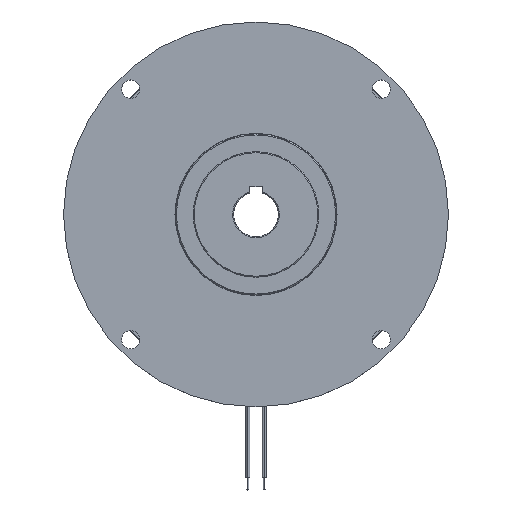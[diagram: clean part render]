
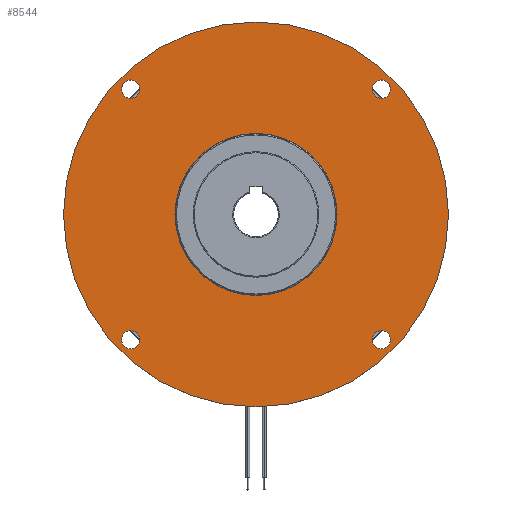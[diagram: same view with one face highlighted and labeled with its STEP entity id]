
A CAD part, top view. The second image highlights one B-rep face of the part: STEP entity #8544.
In plain terms, the highlighted planar face has unit normal (0, 0, 1).
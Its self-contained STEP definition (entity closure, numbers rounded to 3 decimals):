
#44 = CIRCLE ( 'NONE', #6702, 40. ) ;
#144 = DIRECTION ( 'NONE',  ( 0., 0., -1. ) ) ;
#175 = EDGE_CURVE ( 'NONE', #2555, #3158, #5565, .T. ) ;
#204 = AXIS2_PLACEMENT_3D ( 'NONE', #5038, #4510, #4339 ) ;
#251 = DIRECTION ( 'NONE',  ( 0., 0., -1. ) ) ;
#262 = DIRECTION ( 'NONE',  ( -1., 0., 0. ) ) ;
#287 = EDGE_CURVE ( 'NONE', #3158, #2555, #1595, .T. ) ;
#376 = CARTESIAN_POINT ( 'NONE',  ( -66.372, 61.872, 0. ) ) ;
#389 = ORIENTED_EDGE ( 'NONE', *, *, #1904, .F. ) ;
#463 = CARTESIAN_POINT ( 'NONE',  ( 57.372, -61.872, 0. ) ) ;
#587 = EDGE_CURVE ( 'NONE', #1564, #6112, #7702, .T. ) ;
#684 = AXIS2_PLACEMENT_3D ( 'NONE', #5511, #8155, #262 ) ;
#701 = VERTEX_POINT ( 'NONE', #6512 ) ;
#739 = DIRECTION ( 'NONE',  ( 0., 0., -1. ) ) ;
#961 = DIRECTION ( 'NONE',  ( -1., 0., 0. ) ) ;
#979 = CARTESIAN_POINT ( 'NONE',  ( 61.872, -61.872, 0. ) ) ;
#1136 = CARTESIAN_POINT ( 'NONE',  ( -61.872, -61.872, 0. ) ) ;
#1158 = DIRECTION ( 'NONE',  ( -1., 0., 0. ) ) ;
#1263 = FACE_OUTER_BOUND ( 'NONE', #4305, .T. ) ;
#1274 = VERTEX_POINT ( 'NONE', #376 ) ;
#1493 = CARTESIAN_POINT ( 'NONE',  ( -61.872, 61.872, 0. ) ) ;
#1564 = VERTEX_POINT ( 'NONE', #4825 ) ;
#1595 = CIRCLE ( 'NONE', #2318, 4.5 ) ;
#1646 = CARTESIAN_POINT ( 'NONE',  ( -61.872, -61.872, 0. ) ) ;
#1727 = AXIS2_PLACEMENT_3D ( 'NONE', #2016, #144, #8216 ) ;
#1851 = VERTEX_POINT ( 'NONE', #3215 ) ;
#1890 = FACE_BOUND ( 'NONE', #1901, .T. ) ;
#1901 = EDGE_LOOP ( 'NONE', ( #8313, #5545 ) ) ;
#1904 = EDGE_CURVE ( 'NONE', #1851, #4398, #7041, .T. ) ;
#1974 = CARTESIAN_POINT ( 'NONE',  ( 0., 0., 0. ) ) ;
#2016 = CARTESIAN_POINT ( 'NONE',  ( 61.872, 61.872, 0. ) ) ;
#2019 = FACE_BOUND ( 'NONE', #7188, .T. ) ;
#2031 = CIRCLE ( 'NONE', #5571, 4.5 ) ;
#2070 = CARTESIAN_POINT ( 'NONE',  ( 0., 0., 0. ) ) ;
#2275 = CARTESIAN_POINT ( 'NONE',  ( -40., 0., 0. ) ) ;
#2318 = AXIS2_PLACEMENT_3D ( 'NONE', #5663, #7791, #8302 ) ;
#2372 = CARTESIAN_POINT ( 'NONE',  ( 95., 0., 0. ) ) ;
#2555 = VERTEX_POINT ( 'NONE', #6780 ) ;
#2686 = EDGE_CURVE ( 'NONE', #4931, #4328, #4215, .T. ) ;
#2740 = FACE_BOUND ( 'NONE', #3108, .T. ) ;
#2802 = DIRECTION ( 'NONE',  ( 0., 0., -1. ) ) ;
#3103 = CIRCLE ( 'NONE', #8559, 40. ) ;
#3108 = EDGE_LOOP ( 'NONE', ( #3924, #3816 ) ) ;
#3158 = VERTEX_POINT ( 'NONE', #7194 ) ;
#3215 = CARTESIAN_POINT ( 'NONE',  ( -95., 0., 0. ) ) ;
#3225 = DIRECTION ( 'NONE',  ( -1., 0., 0. ) ) ;
#3232 = EDGE_LOOP ( 'NONE', ( #3344, #5764 ) ) ;
#3304 = ORIENTED_EDGE ( 'NONE', *, *, #3465, .T. ) ;
#3344 = ORIENTED_EDGE ( 'NONE', *, *, #287, .T. ) ;
#3404 = AXIS2_PLACEMENT_3D ( 'NONE', #1646, #6383, #5732 ) ;
#3465 = EDGE_CURVE ( 'NONE', #4328, #4931, #4414, .T. ) ;
#3577 = CARTESIAN_POINT ( 'NONE',  ( -61.872, 61.872, 0. ) ) ;
#3626 = CIRCLE ( 'NONE', #8654, 4.5 ) ;
#3630 = CARTESIAN_POINT ( 'NONE',  ( -66.372, -61.872, 0. ) ) ;
#3688 = DIRECTION ( 'NONE',  ( -1., 0., 0. ) ) ;
#3778 = CARTESIAN_POINT ( 'NONE',  ( -57.372, -61.872, 0. ) ) ;
#3816 = ORIENTED_EDGE ( 'NONE', *, *, #587, .T. ) ;
#3924 = ORIENTED_EDGE ( 'NONE', *, *, #6985, .T. ) ;
#4038 = DIRECTION ( 'NONE',  ( 0., 0., -1. ) ) ;
#4181 = AXIS2_PLACEMENT_3D ( 'NONE', #7361, #6016, #3225 ) ;
#4215 = CIRCLE ( 'NONE', #7710, 4.5 ) ;
#4225 = DIRECTION ( 'NONE',  ( -1., 0., 0. ) ) ;
#4305 = EDGE_LOOP ( 'NONE', ( #389, #7731 ) ) ;
#4321 = DIRECTION ( 'NONE',  ( 0., 0., -1. ) ) ;
#4328 = VERTEX_POINT ( 'NONE', #3778 ) ;
#4339 = DIRECTION ( 'NONE',  ( -1., 0., 0. ) ) ;
#4398 = VERTEX_POINT ( 'NONE', #2372 ) ;
#4414 = CIRCLE ( 'NONE', #3404, 4.5 ) ;
#4510 = DIRECTION ( 'NONE',  ( 0., 0., -1. ) ) ;
#4526 = CIRCLE ( 'NONE', #684, 4.5 ) ;
#4554 = DIRECTION ( 'NONE',  ( -1., 0., 0. ) ) ;
#4733 = FACE_BOUND ( 'NONE', #7122, .T. ) ;
#4825 = CARTESIAN_POINT ( 'NONE',  ( 66.372, -61.872, 0. ) ) ;
#4848 = CARTESIAN_POINT ( 'NONE',  ( 40., 0., 0. ) ) ;
#4917 = DIRECTION ( 'NONE',  ( -1., 0., 0. ) ) ;
#4931 = VERTEX_POINT ( 'NONE', #3630 ) ;
#4947 = EDGE_CURVE ( 'NONE', #1274, #701, #2031, .T. ) ;
#5038 = CARTESIAN_POINT ( 'NONE',  ( 0., 0., 0. ) ) ;
#5212 = AXIS2_PLACEMENT_3D ( 'NONE', #1974, #8468, #4554 ) ;
#5307 = FACE_BOUND ( 'NONE', #3232, .T. ) ;
#5315 = DIRECTION ( 'NONE',  ( -1., 0., 0. ) ) ;
#5511 = CARTESIAN_POINT ( 'NONE',  ( 61.872, -61.872, 0. ) ) ;
#5545 = ORIENTED_EDGE ( 'NONE', *, *, #6480, .T. ) ;
#5565 = CIRCLE ( 'NONE', #1727, 4.5 ) ;
#5571 = AXIS2_PLACEMENT_3D ( 'NONE', #3577, #251, #1158 ) ;
#5663 = CARTESIAN_POINT ( 'NONE',  ( 61.872, 61.872, 0. ) ) ;
#5732 = DIRECTION ( 'NONE',  ( -1., 0., 0. ) ) ;
#5764 = ORIENTED_EDGE ( 'NONE', *, *, #175, .T. ) ;
#6016 = DIRECTION ( 'NONE',  ( 0., 0., -1. ) ) ;
#6112 = VERTEX_POINT ( 'NONE', #463 ) ;
#6227 = DIRECTION ( 'NONE',  ( 0., 0., -1. ) ) ;
#6306 = AXIS2_PLACEMENT_3D ( 'NONE', #979, #4321, #3688 ) ;
#6383 = DIRECTION ( 'NONE',  ( 0., 0., -1. ) ) ;
#6397 = VERTEX_POINT ( 'NONE', #4848 ) ;
#6480 = EDGE_CURVE ( 'NONE', #6397, #6909, #3103, .T. ) ;
#6498 = ORIENTED_EDGE ( 'NONE', *, *, #2686, .T. ) ;
#6512 = CARTESIAN_POINT ( 'NONE',  ( -57.372, 61.872, 0. ) ) ;
#6702 = AXIS2_PLACEMENT_3D ( 'NONE', #2070, #6227, #4917 ) ;
#6754 = PLANE ( 'NONE',  #4181 ) ;
#6780 = CARTESIAN_POINT ( 'NONE',  ( 66.372, 61.872, 0. ) ) ;
#6878 = ORIENTED_EDGE ( 'NONE', *, *, #8295, .T. ) ;
#6909 = VERTEX_POINT ( 'NONE', #2275 ) ;
#6985 = EDGE_CURVE ( 'NONE', #6112, #1564, #4526, .T. ) ;
#7041 = CIRCLE ( 'NONE', #5212, 95. ) ;
#7122 = EDGE_LOOP ( 'NONE', ( #8154, #6878 ) ) ;
#7188 = EDGE_LOOP ( 'NONE', ( #6498, #3304 ) ) ;
#7194 = CARTESIAN_POINT ( 'NONE',  ( 57.372, 61.872, 0. ) ) ;
#7361 = CARTESIAN_POINT ( 'NONE',  ( 0., 95., 0. ) ) ;
#7429 = CARTESIAN_POINT ( 'NONE',  ( 0., 0., 0. ) ) ;
#7702 = CIRCLE ( 'NONE', #6306, 4.5 ) ;
#7710 = AXIS2_PLACEMENT_3D ( 'NONE', #1136, #4038, #5315 ) ;
#7731 = ORIENTED_EDGE ( 'NONE', *, *, #7897, .F. ) ;
#7791 = DIRECTION ( 'NONE',  ( 0., 0., -1. ) ) ;
#7798 = EDGE_CURVE ( 'NONE', #6909, #6397, #44, .T. ) ;
#7897 = EDGE_CURVE ( 'NONE', #4398, #1851, #8643, .T. ) ;
#8154 = ORIENTED_EDGE ( 'NONE', *, *, #4947, .T. ) ;
#8155 = DIRECTION ( 'NONE',  ( 0., 0., -1. ) ) ;
#8216 = DIRECTION ( 'NONE',  ( -1., 0., 0. ) ) ;
#8295 = EDGE_CURVE ( 'NONE', #701, #1274, #3626, .T. ) ;
#8302 = DIRECTION ( 'NONE',  ( -1., 0., 0. ) ) ;
#8313 = ORIENTED_EDGE ( 'NONE', *, *, #7798, .T. ) ;
#8468 = DIRECTION ( 'NONE',  ( 0., 0., -1. ) ) ;
#8544 = ADVANCED_FACE ( 'NONE', ( #5307, #2740, #2019, #4733, #1263, #1890 ), #6754, .F. ) ;
#8559 = AXIS2_PLACEMENT_3D ( 'NONE', #7429, #739, #4225 ) ;
#8643 = CIRCLE ( 'NONE', #204, 95. ) ;
#8654 = AXIS2_PLACEMENT_3D ( 'NONE', #1493, #2802, #961 ) ;
